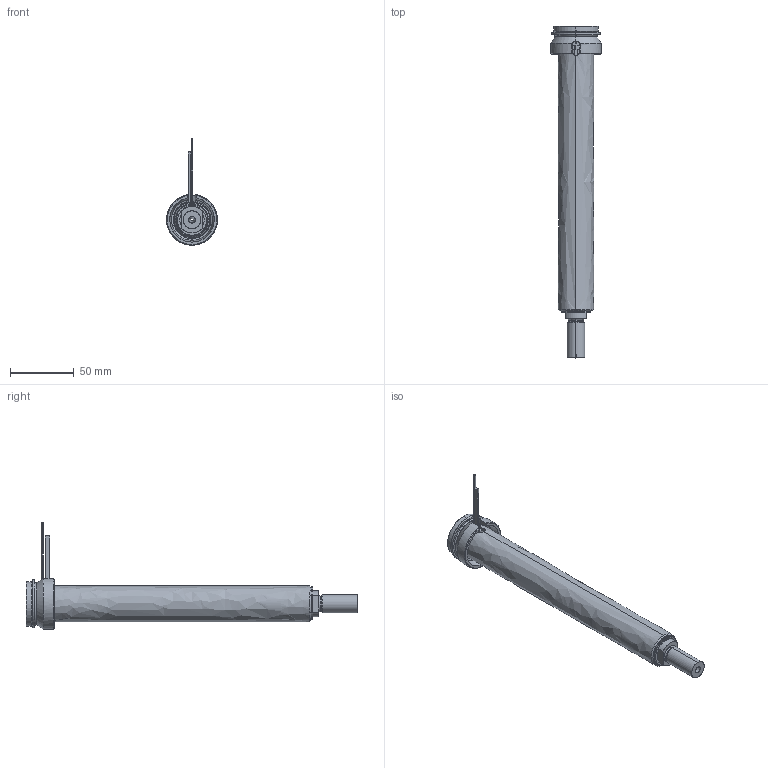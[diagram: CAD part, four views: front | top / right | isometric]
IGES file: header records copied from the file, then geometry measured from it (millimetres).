
Start section: SolidWorks IGES file using analytic representation for surfaces
Global section: file name: C:\Documents and Settings\ws-20\Desktop\TEMPORANEA\UGBE4005-S-A-P-3 [Ød-2.0 P-25 ØC-09].IGS; native system: SolidWorks 2012; preprocessor: SolidWorks 2012; author: ws-20; date: 120306.124044; units: millimetre
Bounding box: 40 x 261 x 83.65 mm (x, y, z)
Surface area: 70332.7 mm2 (no closed solid volume)
Topology: 0 solids, 0 shells, 109 faces, 1907 edges, 1907 vertices
Faces by surface type: revolution 66, bspline 43
